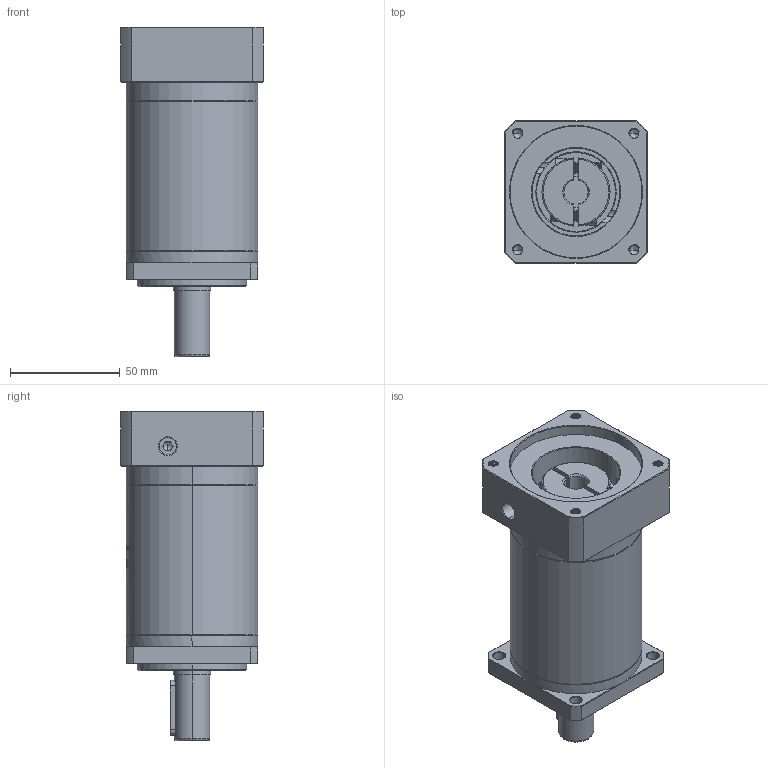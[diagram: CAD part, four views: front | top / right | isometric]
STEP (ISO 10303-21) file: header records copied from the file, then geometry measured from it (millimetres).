
FILE_DESCRIPTION (( 'STEP AP214' ), '1' );
FILE_NAME ('ZF060-D16-L3-P2-11-60-75-M5.step', '2023-08-16T04:28:23', ( '' ), ( '' ), 'SwSTEP 2.0', 'SolidWorks 2016', '' );
FILE_SCHEMA (( 'AUTOMOTIVE_DESIGN' ));
Length unit declared in the file: millimetre
Products named in the file (1): ZF060-D16-L3-P2-11-60-75-M5
Bounding box: 65 x 65 x 150 mm (x, y, z)
Volume: 334646.1 mm3; surface area: 53418.5 mm2
Topology: 6 solids, 6 shells, 1771 faces, 4792 edges, 3105 vertices
Faces by surface type: plane 799, cylinder 364, bspline 354, cone 236, torus 18
Entity records: 101600 total; most frequent: CARTESIAN_POINT 41849, ORIENTED_EDGE 9556, DIRECTION 6846, EDGE_CURVE 4778, VERTEX_POINT 3105, LINE 2436, VECTOR 2436, AXIS2_PLACEMENT_3D 2205
